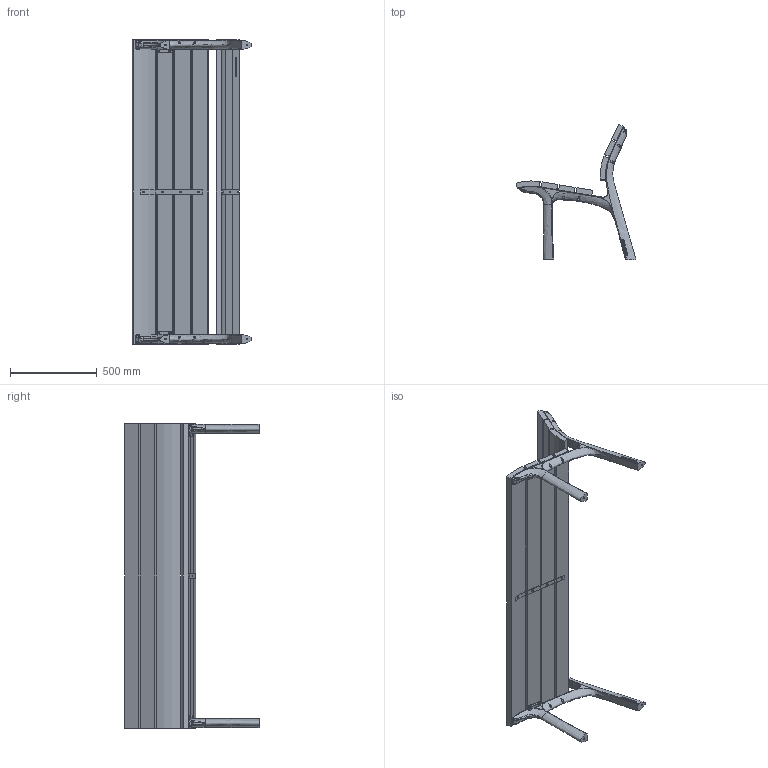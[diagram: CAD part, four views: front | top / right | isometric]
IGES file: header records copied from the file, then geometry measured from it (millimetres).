
Start section: SolidWorks IGES file using analytic representation for surfaces
Global section: file name: C:\SANTACOLE_PDM\Proyectos Catálogo\PROD-P13-022 -- NEOROMANTICO CLÁSICO\6_Técnico comercial\3D WEB\Banco NeoRomántico Clásico 1,75m.IGS; native system: SolidWorks 2013; preprocessor: SolidWorks 2013; author: jordi.munoz; date: 150409.160151; units: millimetre
Bounding box: 689.92 x 775.55 x 1750 mm (x, y, z)
Volume: 43783538.6 mm3; surface area: 3935569.7 mm2
Topology: 46 solids, 46 shells, 5673 faces, 15836 edges, 10272 vertices
Faces by surface type: plane 2465, revolution 2128, bspline 1080
